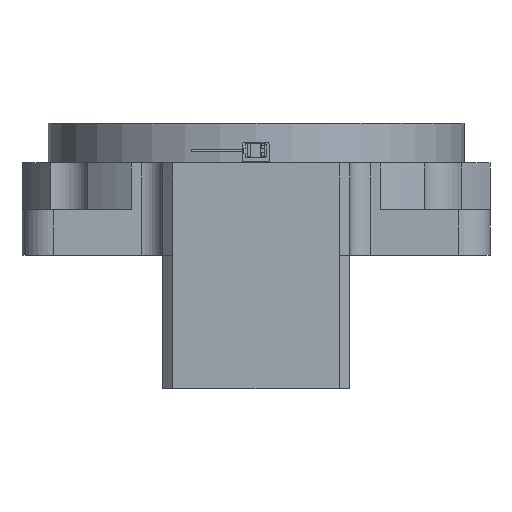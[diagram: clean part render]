
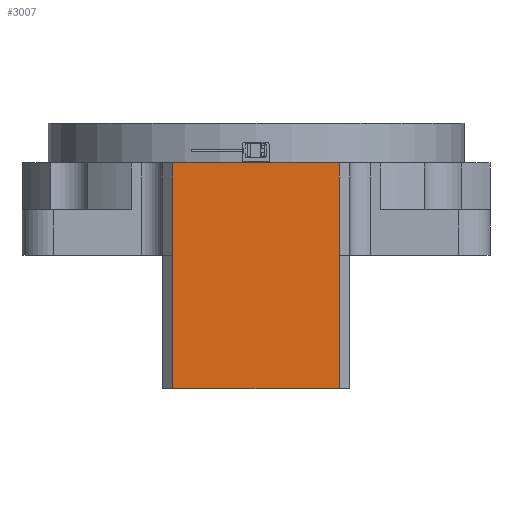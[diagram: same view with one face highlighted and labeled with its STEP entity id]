
A CAD part, front view. The second image highlights one B-rep face of the part: STEP entity #3007.
In plain terms, the highlighted planar face has unit normal (0, -1, 0).
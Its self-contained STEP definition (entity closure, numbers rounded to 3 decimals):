
#980 = CARTESIAN_POINT ( 'NONE',  ( -29.986, -278.702, 127.5 ) ) ;
#1951 = CARTESIAN_POINT ( 'NONE',  ( 50.014, -278.702, 0.5 ) ) ;
#2472 = VECTOR ( 'NONE', #20918, 1000. ) ;
#3007 = ADVANCED_FACE ( 'NONE', ( #3282 ), #12854, .F. ) ;
#3282 = FACE_OUTER_BOUND ( 'NONE', #25349, .T. ) ;
#3636 = VECTOR ( 'NONE', #26789, 1000. ) ;
#3741 = VECTOR ( 'NONE', #28396, 1000. ) ;
#3882 = EDGE_CURVE ( 'NONE', #5585, #20877, #28819, .T. ) ;
#4339 = CARTESIAN_POINT ( 'NONE',  ( 50.014, -278.702, 0.5 ) ) ;
#5012 = DIRECTION ( 'NONE',  ( 0., 0., -1. ) ) ;
#5035 = LINE ( 'NONE', #18605, #3741 ) ;
#5585 = VERTEX_POINT ( 'NONE', #16963 ) ;
#5717 = ORIENTED_EDGE ( 'NONE', *, *, #11907, .T. ) ;
#6148 = VERTEX_POINT ( 'NONE', #9203 ) ;
#7383 = VERTEX_POINT ( 'NONE', #4339 ) ;
#8037 = EDGE_CURVE ( 'NONE', #17586, #7383, #24967, .T. ) ;
#8779 = CARTESIAN_POINT ( 'NONE',  ( 50.014, -278.702, 89.5 ) ) ;
#9203 = CARTESIAN_POINT ( 'NONE',  ( -109.986, -278.702, -127.5 ) ) ;
#10346 = EDGE_CURVE ( 'NONE', #10369, #6148, #18905, .T. ) ;
#10369 = VERTEX_POINT ( 'NONE', #19214 ) ;
#10537 = DIRECTION ( 'NONE',  ( 1., 0., 0. ) ) ;
#11143 = AXIS2_PLACEMENT_3D ( 'NONE', #980, #24439, #10537 ) ;
#11907 = EDGE_CURVE ( 'NONE', #7383, #20877, #27329, .T. ) ;
#12573 = EDGE_CURVE ( 'NONE', #5585, #10369, #22512, .T. ) ;
#12854 = PLANE ( 'NONE',  #11143 ) ;
#13552 = CARTESIAN_POINT ( 'NONE',  ( 50.014, -278.702, -127.5 ) ) ;
#16884 = ORIENTED_EDGE ( 'NONE', *, *, #12573, .T. ) ;
#16963 = CARTESIAN_POINT ( 'NONE',  ( -109.986, -278.702, 89.5 ) ) ;
#17586 = VERTEX_POINT ( 'NONE', #13552 ) ;
#18605 = CARTESIAN_POINT ( 'NONE',  ( 60.014, -278.702, -127.5 ) ) ;
#18905 = LINE ( 'NONE', #24014, #23583 ) ;
#19214 = CARTESIAN_POINT ( 'NONE',  ( -109.986, -278.702, 0.5 ) ) ;
#20877 = VERTEX_POINT ( 'NONE', #21935 ) ;
#20918 = DIRECTION ( 'NONE',  ( 0., 0., 1. ) ) ;
#21414 = ORIENTED_EDGE ( 'NONE', *, *, #3882, .F. ) ;
#21935 = CARTESIAN_POINT ( 'NONE',  ( 50.014, -278.702, 89.5 ) ) ;
#22216 = CARTESIAN_POINT ( 'NONE',  ( -109.986, -278.702, 127.5 ) ) ;
#22290 = VECTOR ( 'NONE', #29223, 1000. ) ;
#22512 = LINE ( 'NONE', #22216, #22290 ) ;
#23583 = VECTOR ( 'NONE', #5012, 1000. ) ;
#24014 = CARTESIAN_POINT ( 'NONE',  ( -109.986, -278.702, 127.5 ) ) ;
#24439 = DIRECTION ( 'NONE',  ( 0., 1., 0. ) ) ;
#24721 = VECTOR ( 'NONE', #25135, 1000. ) ;
#24890 = EDGE_CURVE ( 'NONE', #17586, #6148, #5035, .T. ) ;
#24967 = LINE ( 'NONE', #1951, #2472 ) ;
#25135 = DIRECTION ( 'NONE',  ( 0., 0., 1. ) ) ;
#25349 = EDGE_LOOP ( 'NONE', ( #16884, #28636, #27530, #30197, #5717, #21414 ) ) ;
#26789 = DIRECTION ( 'NONE',  ( 1., 0., 0. ) ) ;
#27329 = LINE ( 'NONE', #8779, #24721 ) ;
#27530 = ORIENTED_EDGE ( 'NONE', *, *, #24890, .F. ) ;
#28396 = DIRECTION ( 'NONE',  ( -1., 0., 0. ) ) ;
#28636 = ORIENTED_EDGE ( 'NONE', *, *, #10346, .T. ) ;
#28819 = LINE ( 'NONE', #29399, #3636 ) ;
#29223 = DIRECTION ( 'NONE',  ( 0., 0., -1. ) ) ;
#29399 = CARTESIAN_POINT ( 'NONE',  ( -29.986, -278.702, 89.5 ) ) ;
#30197 = ORIENTED_EDGE ( 'NONE', *, *, #8037, .T. ) ;
